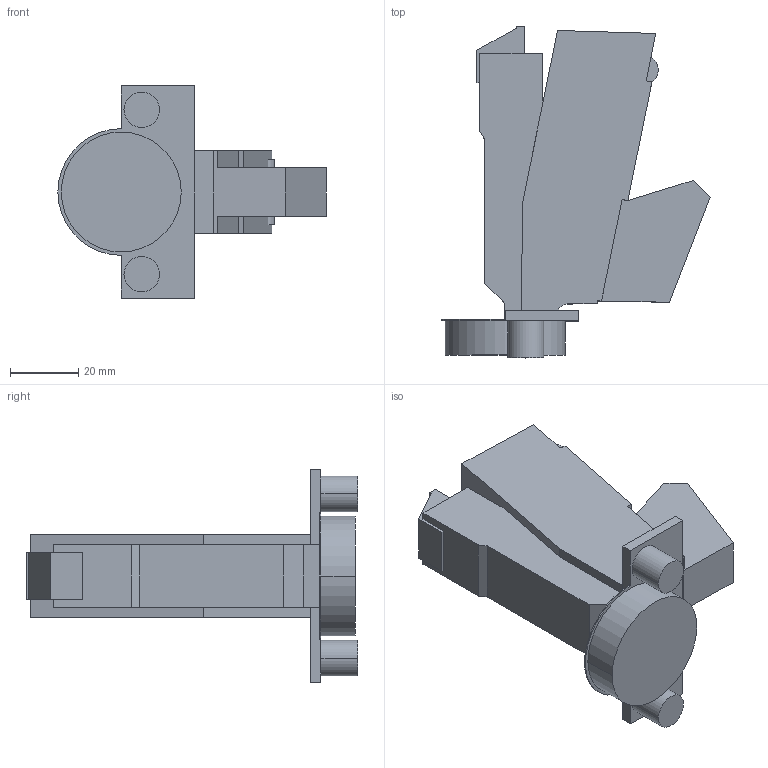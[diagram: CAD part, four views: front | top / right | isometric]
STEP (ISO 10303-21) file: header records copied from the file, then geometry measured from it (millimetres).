
FILE_DESCRIPTION (( 'STEP AP214' ), '1' );
FILE_NAME ('Scharnier TS Click-on 160° S_BB, K95_Dübel.step', '2010-12-13T10:16:09', ( 'grass' ), ( '' ), 'SwSTEP 2.0', 'SolidWorks 2010', '' );
FILE_SCHEMA (( 'AUTOMOTIVE_DESIGN' ));
Length unit declared in the file: millimetre
Products named in the file (1): Scharnier TS Click-on 160° S_BB, K95_Dübel
Bounding box: 78.32 x 96.89 x 62 mm (x, y, z)
Volume: 101236.2 mm3; surface area: 20858 mm2
Topology: 1 solids, 2 shells, 71 faces, 182 edges, 120 vertices
Faces by surface type: plane 57, cylinder 14
Entity records: 2163 total; most frequent: CARTESIAN_POINT 377, ORIENTED_EDGE 364, DIRECTION 352, EDGE_CURVE 182, VECTOR 154, LINE 154, VERTEX_POINT 120, AXIS2_PLACEMENT_3D 99
